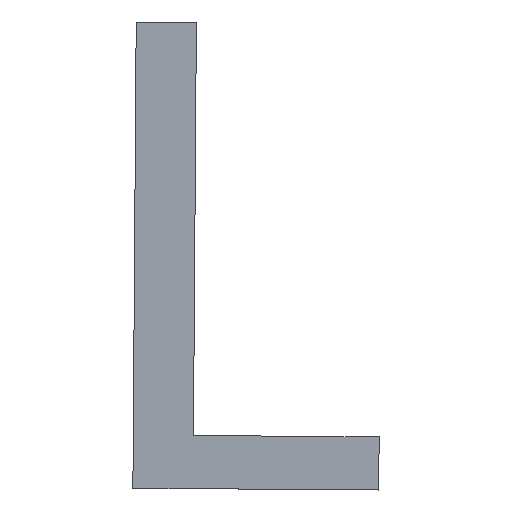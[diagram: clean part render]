
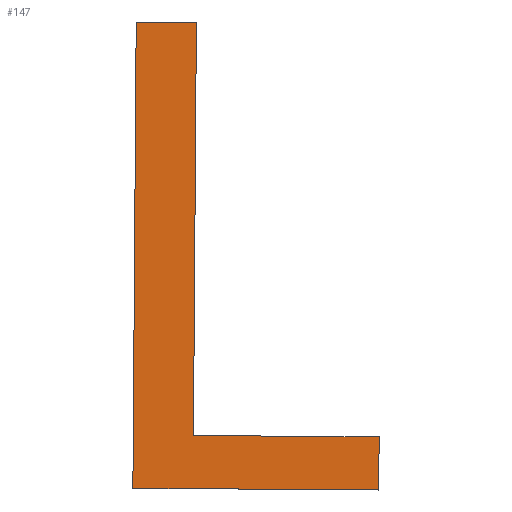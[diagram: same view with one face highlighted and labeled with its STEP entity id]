
A CAD part, top view. The second image highlights one B-rep face of the part: STEP entity #147.
In plain terms, the highlighted planar face has unit normal (0, 0, 1).
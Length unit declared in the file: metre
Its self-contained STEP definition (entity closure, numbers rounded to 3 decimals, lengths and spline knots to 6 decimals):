
#18=ORIENTED_EDGE('',*,*,#54,.T.);
#19=ORIENTED_EDGE('',*,*,#55,.T.);
#20=ORIENTED_EDGE('',*,*,#56,.T.);
#21=ORIENTED_EDGE('',*,*,#57,.T.);
#22=ORIENTED_EDGE('',*,*,#58,.T.);
#23=ORIENTED_EDGE('',*,*,#59,.T.);
#54=EDGE_CURVE('',#72,#73,#84,.T.);
#55=EDGE_CURVE('',#73,#74,#85,.T.);
#56=EDGE_CURVE('',#74,#75,#86,.T.);
#57=EDGE_CURVE('',#75,#76,#87,.T.);
#58=EDGE_CURVE('',#76,#77,#88,.T.);
#59=EDGE_CURVE('',#77,#72,#89,.T.);
#72=VERTEX_POINT('',#276);
#73=VERTEX_POINT('',#277);
#74=VERTEX_POINT('',#279);
#75=VERTEX_POINT('',#281);
#76=VERTEX_POINT('',#283);
#77=VERTEX_POINT('',#285);
#84=LINE('',#275,#102);
#85=LINE('',#278,#103);
#86=LINE('',#280,#104);
#87=LINE('',#282,#105);
#88=LINE('',#284,#106);
#89=LINE('',#286,#107);
#102=VECTOR('',#236,1.);
#103=VECTOR('',#237,1.);
#104=VECTOR('',#238,1.);
#105=VECTOR('',#239,1.);
#106=VECTOR('',#240,1.);
#107=VECTOR('',#241,1.);
#115=EDGE_LOOP('',(#18,#19,#20,#21,#22,#23));
#123=FACE_BOUND('',#115,.T.);
#131=PLANE('',#217);
#147=ADVANCED_FACE('',(#123),#131,.F.);
#217=AXIS2_PLACEMENT_3D('',#274,#234,#235);
#234=DIRECTION('',(0.,0.,-1.));
#235=DIRECTION('',(1.,0.,0.));
#236=DIRECTION('',(0.007,1.,0.));
#237=DIRECTION('',(-1.,0.007,0.));
#238=DIRECTION('',(0.007,1.,0.));
#239=DIRECTION('',(-1.,0.007,0.));
#240=DIRECTION('',(-0.007,-1.,0.));
#241=DIRECTION('',(1.,-0.007,0.));
#274=CARTESIAN_POINT('',(-0.120184,-0.064652,0.011051));
#275=CARTESIAN_POINT('',(-0.121244,-0.065598,0.011051));
#276=CARTESIAN_POINT('',(-0.121245,-0.065611,0.011051));
#277=CARTESIAN_POINT('',(-0.121244,-0.065598,0.011051));
#278=CARTESIAN_POINT('',(-0.121293,-0.065597,0.011051));
#279=CARTESIAN_POINT('',(-0.121293,-0.065597,0.011051));
#280=CARTESIAN_POINT('',(-0.121292,-0.065489,0.011051));
#281=CARTESIAN_POINT('',(-0.121292,-0.065489,0.011051));
#282=CARTESIAN_POINT('',(-0.121308,-0.065489,0.011051));
#283=CARTESIAN_POINT('',(-0.121308,-0.065489,0.011051));
#284=CARTESIAN_POINT('',(-0.121309,-0.065611,0.011051));
#285=CARTESIAN_POINT('',(-0.121309,-0.065611,0.011051));
#286=CARTESIAN_POINT('',(-0.121245,-0.065611,0.011051));
